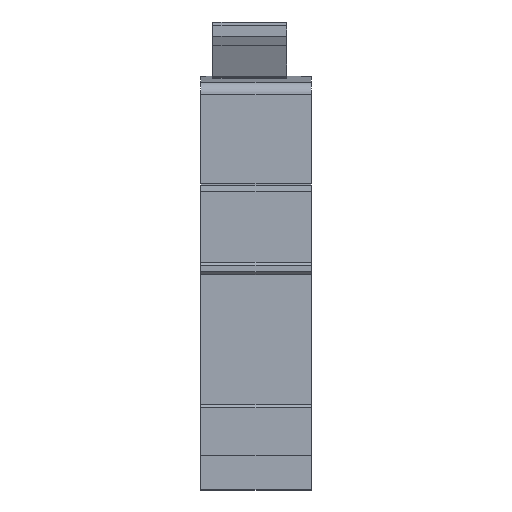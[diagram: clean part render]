
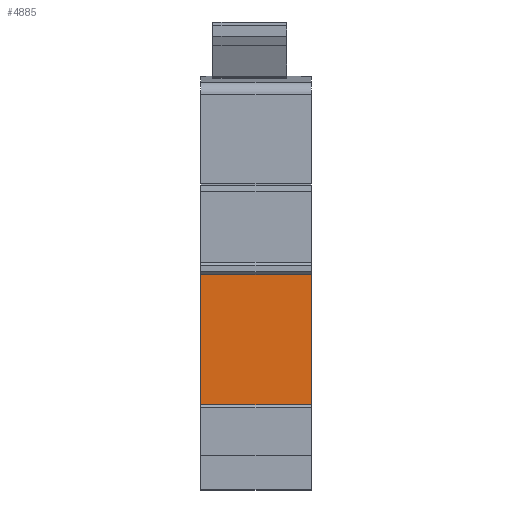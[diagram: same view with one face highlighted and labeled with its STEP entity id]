
A CAD part, front view. The second image highlights one B-rep face of the part: STEP entity #4885.
In plain terms, the highlighted planar face has unit normal (0, -1, 0).
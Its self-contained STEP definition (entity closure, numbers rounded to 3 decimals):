
#167=LINE('',#6889,#638);
#362=LINE('',#8282,#833);
#406=LINE('',#8374,#877);
#407=LINE('',#8376,#878);
#638=VECTOR('',#5554,10.);
#833=VECTOR('',#6245,10.);
#877=VECTOR('',#6303,10.);
#878=VECTOR('',#6306,10.);
#1180=PLANE('',#5304);
#1527=FACE_OUTER_BOUND('',#1863,.T.);
#1863=EDGE_LOOP('',(#4066,#4067,#4068,#4069));
#2211=VERTEX_POINT('',#6886);
#2212=VERTEX_POINT('',#6888);
#2465=VERTEX_POINT('',#8279);
#2466=VERTEX_POINT('',#8281);
#2683=EDGE_CURVE('',#2211,#2212,#167,.T.);
#3052=EDGE_CURVE('',#2466,#2465,#362,.T.);
#3099=EDGE_CURVE('',#2465,#2212,#406,.T.);
#3100=EDGE_CURVE('',#2466,#2211,#407,.T.);
#4066=ORIENTED_EDGE('',*,*,#3052,.T.);
#4067=ORIENTED_EDGE('',*,*,#3099,.T.);
#4068=ORIENTED_EDGE('',*,*,#2683,.F.);
#4069=ORIENTED_EDGE('',*,*,#3100,.F.);
#4885=ADVANCED_FACE('',(#1527),#1180,.T.);
#5304=AXIS2_PLACEMENT_3D('',#8375,#6304,#6305);
#5554=DIRECTION('',(0.,0.,-1.));
#6245=DIRECTION('',(0.,0.,-1.));
#6303=DIRECTION('',(1.,0.,0.));
#6304=DIRECTION('center_axis',(0.,-1.,0.));
#6305=DIRECTION('ref_axis',(0.,0.,-1.));
#6306=DIRECTION('',(1.,0.,0.));
#6886=CARTESIAN_POINT('',(18.,-45.241,5.4));
#6888=CARTESIAN_POINT('',(18.,-45.241,-15.712));
#6889=CARTESIAN_POINT('',(18.,-45.241,5.4));
#8279=CARTESIAN_POINT('',(0.,-45.241,-15.712));
#8281=CARTESIAN_POINT('',(0.,-45.241,5.4));
#8282=CARTESIAN_POINT('',(0.,-45.241,5.4));
#8374=CARTESIAN_POINT('',(0.,-45.241,-15.712));
#8375=CARTESIAN_POINT('Origin',(0.,-45.241,5.4));
#8376=CARTESIAN_POINT('',(0.,-45.241,5.4));
